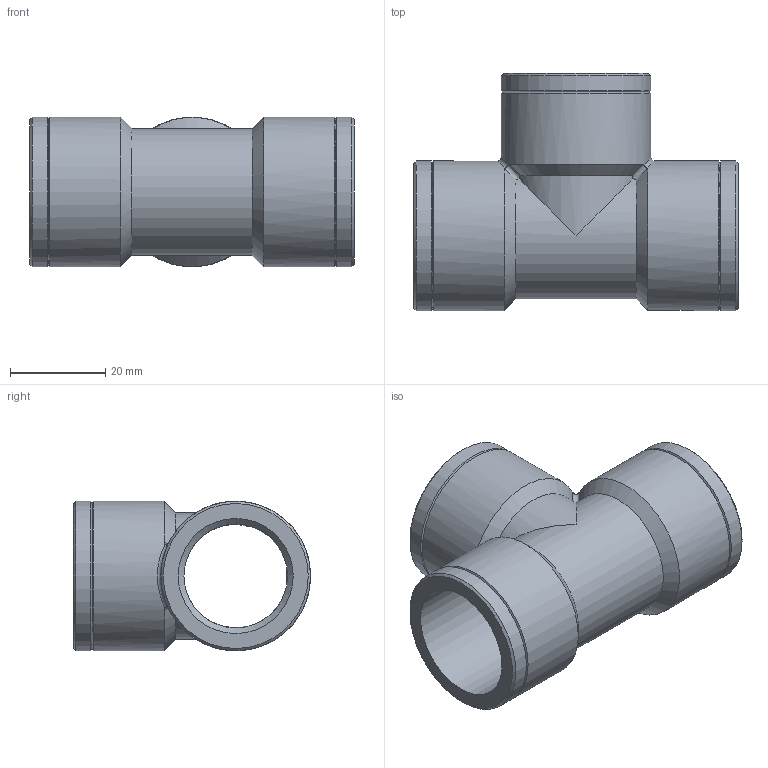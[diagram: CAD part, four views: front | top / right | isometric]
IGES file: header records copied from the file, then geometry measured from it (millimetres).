
Global section: file name: 050407007_0504070070A.ipt; native system: Autodesk Inventor 2015; preprocessor: unknown; author: KIM; date: 20170618.093159; units: millimetre
Bounding box: 68 x 49.68 x 31.35 mm (x, y, z)
Volume: 23898.5 mm3; surface area: 15716.5 mm2
Topology: 1 solids, 1 shells, 39 faces, 112 edges, 74 vertices
Faces by surface type: cone 13, cylinder 9, revolution 8, bspline 6, plane 3
Full cylindrical faces by diameter (mm): 31.352 x6
